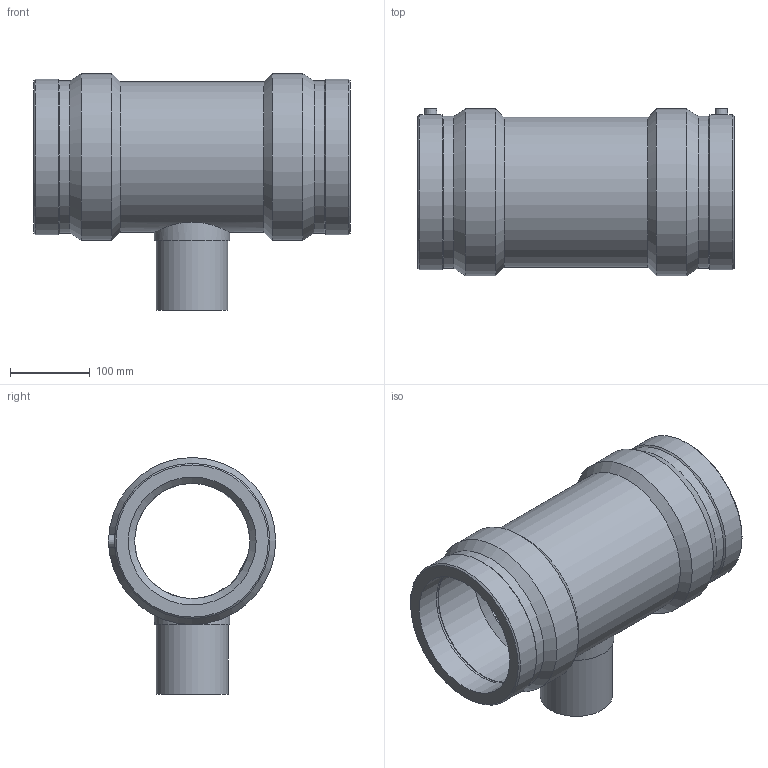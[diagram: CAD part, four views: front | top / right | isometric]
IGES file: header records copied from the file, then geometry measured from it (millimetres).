
Global section: file name: 491404160090.ipt; native system: Autodesk Inventor 2015; preprocessor: unknown; author: KIM; date: 20190909.112838; units: millimetre
Bounding box: 396 x 209.5 x 296.5 mm (x, y, z)
Volume: 4737746.3 mm3; surface area: 513619.8 mm2
Topology: 1 solids, 1 shells, 45 faces, 101 edges, 66 vertices
Faces by surface type: plane 12, revolution 12, cylinder 11, cone 10
Full cylindrical faces by diameter (mm): 4 x2, 90 x1, 94.5 x1, 188.1 x1, 190.483 x2, 194.37 x2, 209 x2
